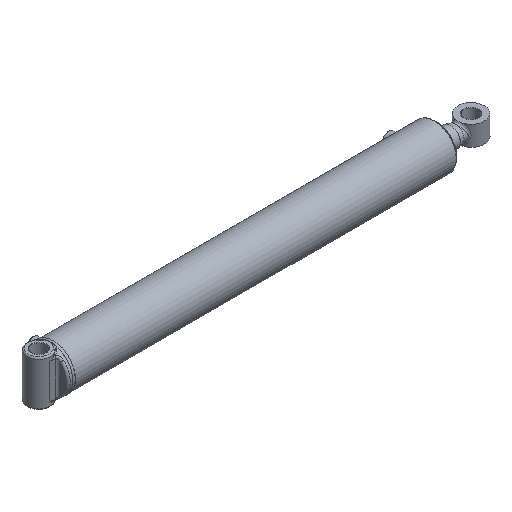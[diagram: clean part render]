
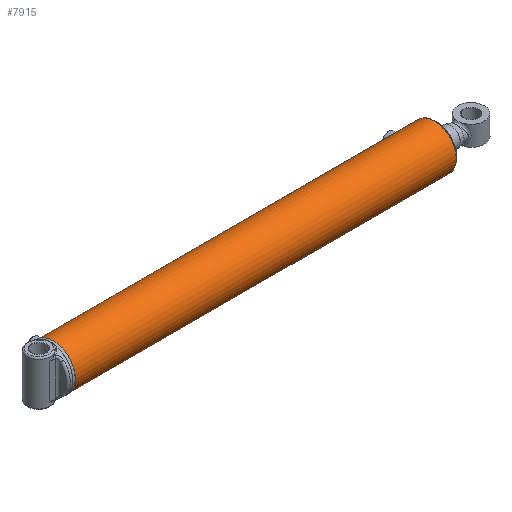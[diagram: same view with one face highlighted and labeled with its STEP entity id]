
A CAD part, isometric view. The second image highlights one B-rep face of the part: STEP entity #7915.
In plain terms, the highlighted cylindrical face has radius 49.212 mm (diameter 98.425 mm), a full revolution.
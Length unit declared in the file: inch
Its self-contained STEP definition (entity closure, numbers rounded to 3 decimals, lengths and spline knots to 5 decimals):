
#653=B_SPLINE_CURVE_WITH_KNOTS('',3,(#11899,#11900,#11901,#11902,#11903,
#11904,#11905,#11906,#11907,#11908),.UNSPECIFIED.,.F.,.F.,(4,2,2,2,4),(0.,
0.17952,0.35904,0.53855,0.71807),
 .UNSPECIFIED.);
#654=B_SPLINE_CURVE_WITH_KNOTS('',3,(#11909,#11910,#11911,#11912,#11913,
#11914,#11915,#11916,#11917,#11918,#11919,#11920,#11921,#11922,#11923,#11924,
#11925,#11926,#11927,#11928,#11929,#11930,#11931,#11932,#11933,#11934),
 .UNSPECIFIED.,.F.,.F.,(4,2,2,2,2,2,2,2,2,2,2,2,4),(0.71807,0.89759,
1.07711,1.25662,1.43614,1.61566,1.79518,
1.97469,2.15421,2.33373,2.51325,2.69276,
2.87228),.UNSPECIFIED.);
#655=B_SPLINE_CURVE_WITH_KNOTS('',3,(#11939,#11940,#11941,#11942,#11943,
#11944,#11945,#11946,#11947,#11948),.UNSPECIFIED.,.F.,.F.,(4,2,2,2,4),(0.,
0.17952,0.35904,0.53855,0.71807),
 .UNSPECIFIED.);
#656=B_SPLINE_CURVE_WITH_KNOTS('',3,(#11949,#11950,#11951,#11952,#11953,
#11954,#11955,#11956,#11957,#11958,#11959,#11960,#11961,#11962,#11963,#11964,
#11965,#11966,#11967,#11968,#11969,#11970,#11971,#11972,#11973,#11974),
 .UNSPECIFIED.,.F.,.F.,(4,2,2,2,2,2,2,2,2,2,2,2,4),(0.71807,0.89759,
1.07711,1.25662,1.43614,1.61566,1.79518,
1.97469,2.15421,2.33373,2.51325,2.69276,
2.87228),.UNSPECIFIED.);
#962=FACE_BOUND('',#2484,.T.);
#963=FACE_BOUND('',#2485,.T.);
#1244=LINE('',#12002,#1570);
#1570=VECTOR('',#9736,1.9375);
#1893=CYLINDRICAL_SURFACE('',#8765,1.9375);
#1987=FACE_OUTER_BOUND('',#2483,.T.);
#2483=EDGE_LOOP('',(#5553,#5554,#5555,#5556,#5557,#5558));
#2484=EDGE_LOOP('',(#5559,#5560));
#2485=EDGE_LOOP('',(#5561,#5562));
#3065=CIRCLE('',#8762,1.9375);
#3067=CIRCLE('',#8764,1.9375);
#3068=CIRCLE('',#8766,1.9375);
#3069=CIRCLE('',#8767,1.9375);
#3547=VERTEX_POINT('',#11896);
#3548=VERTEX_POINT('',#11898);
#3549=VERTEX_POINT('',#11936);
#3550=VERTEX_POINT('',#11938);
#3557=VERTEX_POINT('',#11995);
#3558=VERTEX_POINT('',#11996);
#3559=VERTEX_POINT('',#12001);
#3560=VERTEX_POINT('',#12003);
#4319=EDGE_CURVE('',#3548,#3547,#653,.T.);
#4320=EDGE_CURVE('',#3547,#3548,#654,.T.);
#4322=EDGE_CURVE('',#3550,#3549,#655,.T.);
#4323=EDGE_CURVE('',#3549,#3550,#656,.T.);
#4333=EDGE_CURVE('',#3557,#3558,#3065,.T.);
#4335=EDGE_CURVE('',#3558,#3557,#3067,.T.);
#4336=EDGE_CURVE('',#3557,#3559,#1244,.T.);
#4337=EDGE_CURVE('',#3560,#3559,#3068,.T.);
#4338=EDGE_CURVE('',#3559,#3560,#3069,.T.);
#5553=ORIENTED_EDGE('',*,*,#4333,.F.);
#5554=ORIENTED_EDGE('',*,*,#4336,.T.);
#5555=ORIENTED_EDGE('',*,*,#4337,.F.);
#5556=ORIENTED_EDGE('',*,*,#4338,.F.);
#5557=ORIENTED_EDGE('',*,*,#4336,.F.);
#5558=ORIENTED_EDGE('',*,*,#4335,.F.);
#5559=ORIENTED_EDGE('',*,*,#4319,.T.);
#5560=ORIENTED_EDGE('',*,*,#4320,.T.);
#5561=ORIENTED_EDGE('',*,*,#4322,.T.);
#5562=ORIENTED_EDGE('',*,*,#4323,.T.);
#7915=ADVANCED_FACE('',(#1987,#962,#963),#1893,.T.);
#8762=AXIS2_PLACEMENT_3D('',#11997,#9728,#9729);
#8764=AXIS2_PLACEMENT_3D('',#11999,#9732,#9733);
#8765=AXIS2_PLACEMENT_3D('',#12000,#9734,#9735);
#8766=AXIS2_PLACEMENT_3D('',#12004,#9737,#9738);
#8767=AXIS2_PLACEMENT_3D('',#12005,#9739,#9740);
#9728=DIRECTION('center_axis',(1.,0.,0.));
#9729=DIRECTION('ref_axis',(0.,-1.,0.));
#9732=DIRECTION('center_axis',(1.,0.,0.));
#9733=DIRECTION('ref_axis',(0.,-1.,0.));
#9734=DIRECTION('center_axis',(1.,0.,0.));
#9735=DIRECTION('ref_axis',(0.,-1.,0.));
#9736=DIRECTION('',(-1.,0.,0.));
#9737=DIRECTION('center_axis',(-1.,0.,0.));
#9738=DIRECTION('ref_axis',(0.,-1.,0.));
#9739=DIRECTION('center_axis',(-1.,0.,0.));
#9740=DIRECTION('ref_axis',(0.,-1.,0.));
#11896=CARTESIAN_POINT('',(0.7225,0.,1.9375));
#11898=CARTESIAN_POINT('',(0.91,-0.1875,1.92841));
#11899=CARTESIAN_POINT('Ctrl Pts',(0.91,-0.1875,1.92841));
#11900=CARTESIAN_POINT('Ctrl Pts',(0.88644,-0.1875,1.92841));
#11901=CARTESIAN_POINT('Ctrl Pts',(0.86132,-0.18279,
1.92888));
#11902=CARTESIAN_POINT('Ctrl Pts',(0.81513,-0.16365,
1.9306));
#11903=CARTESIAN_POINT('Ctrl Pts',(0.79406,-0.14922,
1.93182));
#11904=CARTESIAN_POINT('Ctrl Pts',(0.76078,-0.11594,
1.9341));
#11905=CARTESIAN_POINT('Ctrl Pts',(0.74635,-0.09487,
1.93531));
#11906=CARTESIAN_POINT('Ctrl Pts',(0.72721,-0.04868,
1.93703));
#11907=CARTESIAN_POINT('Ctrl Pts',(0.7225,-0.02356,1.9375));
#11908=CARTESIAN_POINT('Ctrl Pts',(0.7225,0.,1.9375));
#11909=CARTESIAN_POINT('Ctrl Pts',(0.7225,0.,1.9375));
#11910=CARTESIAN_POINT('Ctrl Pts',(0.7225,0.02356,1.9375));
#11911=CARTESIAN_POINT('Ctrl Pts',(0.72721,0.04868,
1.93703));
#11912=CARTESIAN_POINT('Ctrl Pts',(0.74635,0.09487,
1.93531));
#11913=CARTESIAN_POINT('Ctrl Pts',(0.76078,0.11594,
1.9341));
#11914=CARTESIAN_POINT('Ctrl Pts',(0.79406,0.14922,
1.93182));
#11915=CARTESIAN_POINT('Ctrl Pts',(0.81513,0.16365,
1.9306));
#11916=CARTESIAN_POINT('Ctrl Pts',(0.86132,0.18279,
1.92888));
#11917=CARTESIAN_POINT('Ctrl Pts',(0.88644,0.1875,1.92841));
#11918=CARTESIAN_POINT('Ctrl Pts',(0.93356,0.1875,1.92841));
#11919=CARTESIAN_POINT('Ctrl Pts',(0.95868,0.18279,
1.92888));
#11920=CARTESIAN_POINT('Ctrl Pts',(1.00487,0.16365,1.9306));
#11921=CARTESIAN_POINT('Ctrl Pts',(1.02594,0.14922,1.93182));
#11922=CARTESIAN_POINT('Ctrl Pts',(1.05922,0.11594,1.9341));
#11923=CARTESIAN_POINT('Ctrl Pts',(1.07365,0.09487,
1.93531));
#11924=CARTESIAN_POINT('Ctrl Pts',(1.09279,0.04868,
1.93703));
#11925=CARTESIAN_POINT('Ctrl Pts',(1.0975,0.02356,1.9375));
#11926=CARTESIAN_POINT('Ctrl Pts',(1.0975,-0.02356,1.9375));
#11927=CARTESIAN_POINT('Ctrl Pts',(1.09279,-0.04868,
1.93703));
#11928=CARTESIAN_POINT('Ctrl Pts',(1.07365,-0.09487,
1.93531));
#11929=CARTESIAN_POINT('Ctrl Pts',(1.05922,-0.11594,
1.9341));
#11930=CARTESIAN_POINT('Ctrl Pts',(1.02594,-0.14922,
1.93182));
#11931=CARTESIAN_POINT('Ctrl Pts',(1.00487,-0.16365,
1.9306));
#11932=CARTESIAN_POINT('Ctrl Pts',(0.95868,-0.18279,
1.92888));
#11933=CARTESIAN_POINT('Ctrl Pts',(0.93356,-0.1875,1.92841));
#11934=CARTESIAN_POINT('Ctrl Pts',(0.91,-0.1875,1.92841));
#11936=CARTESIAN_POINT('',(31.9425,0.,1.9375));
#11938=CARTESIAN_POINT('',(32.13,-0.1875,1.92841));
#11939=CARTESIAN_POINT('Ctrl Pts',(32.13,-0.1875,1.92841));
#11940=CARTESIAN_POINT('Ctrl Pts',(32.10644,-0.1875,
1.92841));
#11941=CARTESIAN_POINT('Ctrl Pts',(32.08132,-0.18279,
1.92888));
#11942=CARTESIAN_POINT('Ctrl Pts',(32.03513,-0.16365,1.9306));
#11943=CARTESIAN_POINT('Ctrl Pts',(32.01406,-0.14922,1.93182));
#11944=CARTESIAN_POINT('Ctrl Pts',(31.98078,-0.11594,
1.9341));
#11945=CARTESIAN_POINT('Ctrl Pts',(31.96635,-0.09487,
1.93531));
#11946=CARTESIAN_POINT('Ctrl Pts',(31.94721,-0.04868,
1.93703));
#11947=CARTESIAN_POINT('Ctrl Pts',(31.9425,-0.02356,1.9375));
#11948=CARTESIAN_POINT('Ctrl Pts',(31.9425,0.,1.9375));
#11949=CARTESIAN_POINT('Ctrl Pts',(31.9425,0.,1.9375));
#11950=CARTESIAN_POINT('Ctrl Pts',(31.9425,0.02356,1.9375));
#11951=CARTESIAN_POINT('Ctrl Pts',(31.94721,0.04868,
1.93703));
#11952=CARTESIAN_POINT('Ctrl Pts',(31.96635,0.09487,
1.93531));
#11953=CARTESIAN_POINT('Ctrl Pts',(31.98078,0.11594,1.9341));
#11954=CARTESIAN_POINT('Ctrl Pts',(32.01406,0.14922,1.93182));
#11955=CARTESIAN_POINT('Ctrl Pts',(32.03513,0.16365,1.9306));
#11956=CARTESIAN_POINT('Ctrl Pts',(32.08132,0.18279,1.92888));
#11957=CARTESIAN_POINT('Ctrl Pts',(32.10644,0.1875,1.92841));
#11958=CARTESIAN_POINT('Ctrl Pts',(32.15356,0.1875,1.92841));
#11959=CARTESIAN_POINT('Ctrl Pts',(32.17868,0.18279,1.92888));
#11960=CARTESIAN_POINT('Ctrl Pts',(32.22487,0.16365,1.9306));
#11961=CARTESIAN_POINT('Ctrl Pts',(32.24594,0.14922,1.93182));
#11962=CARTESIAN_POINT('Ctrl Pts',(32.27922,0.11594,1.9341));
#11963=CARTESIAN_POINT('Ctrl Pts',(32.29365,0.09487,
1.93531));
#11964=CARTESIAN_POINT('Ctrl Pts',(32.31279,0.04868,
1.93703));
#11965=CARTESIAN_POINT('Ctrl Pts',(32.3175,0.02356,1.9375));
#11966=CARTESIAN_POINT('Ctrl Pts',(32.3175,-0.02356,1.9375));
#11967=CARTESIAN_POINT('Ctrl Pts',(32.31279,-0.04868,
1.93703));
#11968=CARTESIAN_POINT('Ctrl Pts',(32.29365,-0.09487,
1.93531));
#11969=CARTESIAN_POINT('Ctrl Pts',(32.27922,-0.11594,
1.9341));
#11970=CARTESIAN_POINT('Ctrl Pts',(32.24594,-0.14922,1.93182));
#11971=CARTESIAN_POINT('Ctrl Pts',(32.22487,-0.16365,1.9306));
#11972=CARTESIAN_POINT('Ctrl Pts',(32.17868,-0.18279,
1.92888));
#11973=CARTESIAN_POINT('Ctrl Pts',(32.15356,-0.1875,
1.92841));
#11974=CARTESIAN_POINT('Ctrl Pts',(32.13,-0.1875,1.92841));
#11995=CARTESIAN_POINT('',(33.56,1.9375,0.));
#11996=CARTESIAN_POINT('',(33.56,0.,-1.9375));
#11997=CARTESIAN_POINT('Origin',(33.56,0.,0.));
#11999=CARTESIAN_POINT('Origin',(33.56,0.,0.));
#12000=CARTESIAN_POINT('Origin',(0.,0.,0.));
#12001=CARTESIAN_POINT('',(0.09382,1.9375,0.));
#12002=CARTESIAN_POINT('',(0.,1.9375,0.));
#12003=CARTESIAN_POINT('',(0.09382,0.,1.9375));
#12004=CARTESIAN_POINT('Origin',(0.09382,0.,0.));
#12005=CARTESIAN_POINT('Origin',(0.09382,0.,0.));
